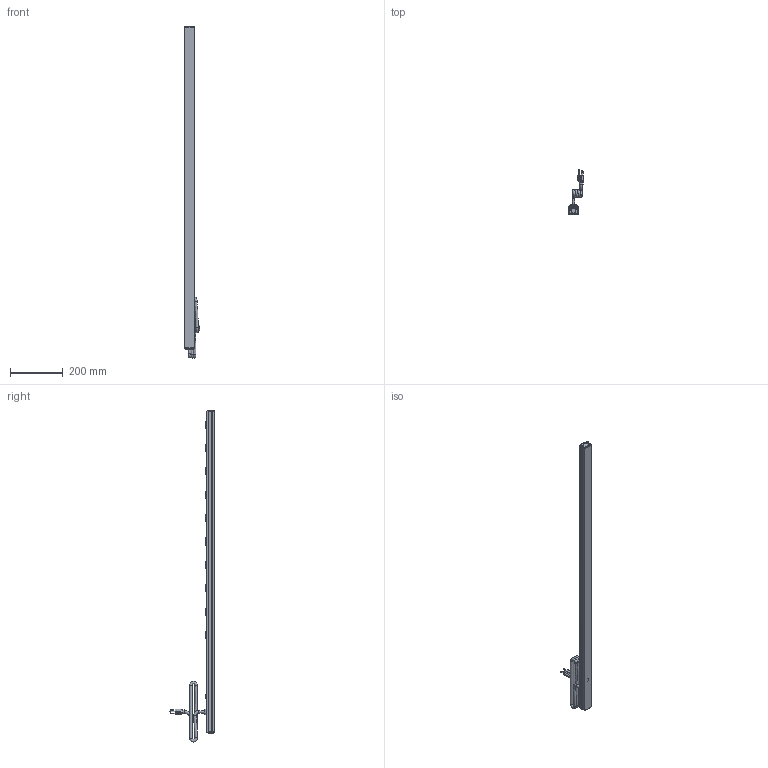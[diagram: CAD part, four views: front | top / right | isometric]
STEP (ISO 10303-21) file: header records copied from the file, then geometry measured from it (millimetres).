
FILE_DESCRIPTION(/* description */ (''),/* implementation_level */ '2;1');
FILE_NAME(/* name */ 'E:\Manufacturing\drawings\Web Drawings\POWER BARS\Surge Protection\1585, 87, 88 ''S'' series\STEP''s\1585H10A1S.stp',/* time_stamp */ '2019-01-14T12:23:25-05:00',/* author */ ('tfoster'),/* organization */ (''),/* preprocessor_version */ 'ST-DEVELOPER v17',/* originating_system */ 'Autodesk Inventor 2019',/* authorisation */ '');
FILE_SCHEMA (('AUTOMOTIVE_DESIGN { 1 0 10303 214 3 1 1 }'));
Products named in the file (14): 1585H10A1; 1585H8 top; 1585 bottom; End Cap; End Cap w breaker; Reset Switch; #29557; Cored 2; Power Switch Assembly; Power Switch; Power Switch pt; Surge Light; tamper proof screw; Receptacle
Assembly tree (25 placements, depth 3):
  1585H10A1
    1585H8 top
    1585 bottom
    End Cap
    End Cap w breaker
    Reset Switch
    #29557  x4
    Cored 2
    Power Switch Assembly
      Power Switch
      Power Switch pt
    Surge Light
    tamper proof screw
    Receptacle  x10
Bounding box: 60.19 x 170.82 x 1262.79 mm (x, y, z)
Volume: 525205.9 mm3; surface area: 486347.6 mm2
Topology: 24 solids, 24 shells, 1295 faces, 3477 edges, 2224 vertices
Faces by surface type: plane 722, cylinder 358, bspline 125, sphere 47, cone 29, torus 14
Full cylindrical faces by diameter (mm): 1 x1, 1.803 x3, 1.905 x2, 2.13 x20, 3 x2, 3.175 x12, 3.505 x12, 4.775 x1, 4.826 x1, 6.858 x1, 7.747 x1, 8 x1, 9.5 x5, 9.652 x1, 11 x1, 15.621 x1, 19.05 x2
Entity records: 29366 total; most frequent: CARTESIAN_POINT 11246, ORIENTED_EDGE 3874, DIRECTION 3295, EDGE_CURVE 1937, VERTEX_POINT 1282, LINE 1165, VECTOR 1165, AXIS2_PLACEMENT_3D 1065
